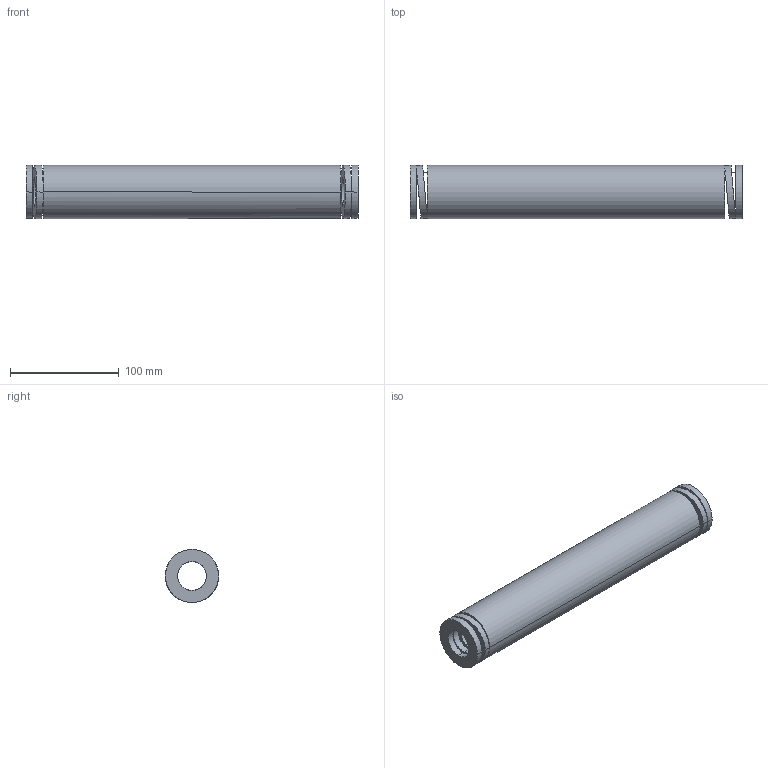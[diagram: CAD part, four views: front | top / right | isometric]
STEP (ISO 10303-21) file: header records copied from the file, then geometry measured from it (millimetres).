
FILE_DESCRIPTION(('CATIA V5 STEP Exchange'),'2;1');
FILE_NAME('C:\Users\Utente\Desktop\IO LAVORO\3D X SITO CF\X SITO\3D files 392B\392-B50-305.stp','2021-08-13T11:41:23+00:00',('none'),('none'),'CATIA Version 5 Release 20 GA (IN-10)','CATIA V5 STEP AP203','none');
FILE_SCHEMA(('CONFIG_CONTROL_DESIGN'));
Length unit declared in the file: millimetre
Products named in the file (1): 392-B50-305
Bounding box: 305 x 49.12 x 48.8 mm (x, y, z)
Volume: 389596.3 mm3; surface area: 83349 mm2
Topology: 1 solids, 1 shells, 38 faces, 92 edges, 64 vertices
Faces by surface type: cylinder 28, plane 10
Entity records: 1626 total; most frequent: CARTESIAN_POINT 747, ORIENTED_EDGE 184, DIRECTION 124, EDGE_CURVE 92, VERTEX_POINT 64, AXIS2_PLACEMENT_3D 59, EDGE_LOOP 56, B_SPLINE_CURVE_WITH_KNOTS 44
